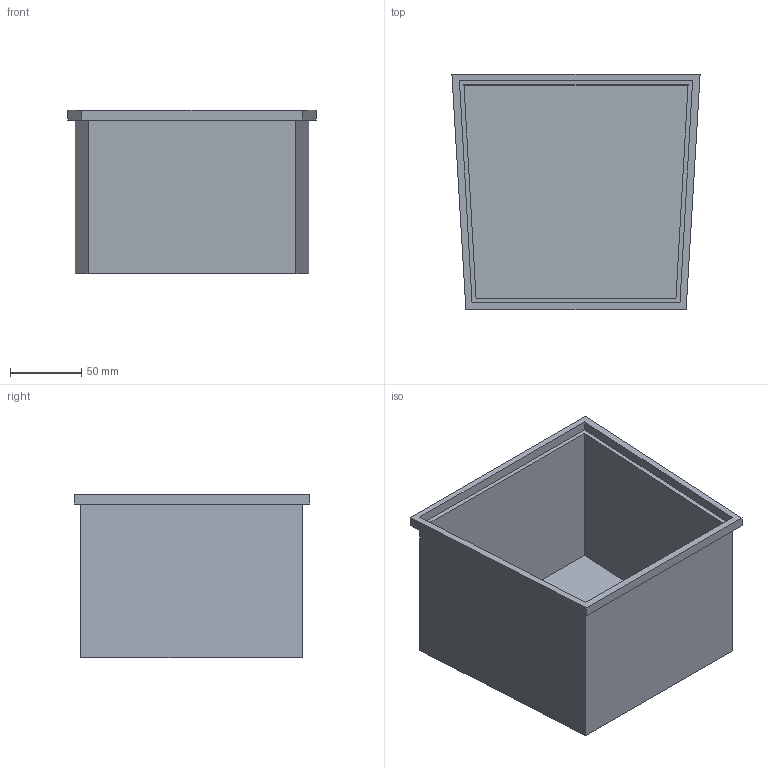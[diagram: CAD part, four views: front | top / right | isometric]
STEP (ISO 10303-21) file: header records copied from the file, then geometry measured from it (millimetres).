
FILE_DESCRIPTION(('HOOPS Exchange Step'),'2;1');
FILE_NAME('/var/folders/p6/724yxtpj5h125n80xclz47x00000gn/T/com.shapr3d.shapr/export/temp_export','2022-03-06T23:24:01+19:00',('jwelin'),('Shapr3D Limited'),'HOOPS Exchange 2021.2','Shapr3D','Authorized');
FILE_SCHEMA( ('AP203_CONFIGURATION_CONTROLLED_3D_DESIGN_OF_MECHANICAL_PARTS_AND_ASSEMBLIES_MIM_LF') );
Length unit declared in the file: millimetre
Products named in the file (1): /var/folders/p6/724yxtpj5h125n80xclz47x00000gn/T/com.shapr3d.shapr/481D4382-DF49-4668-9165-B24318905B1D.tmp
Bounding box: 174.67 x 165.56 x 114.88 mm (x, y, z)
Volume: 286175 mm3; surface area: 193617.6 mm2
Topology: 2 solids, 2 shells, 21 faces, 48 edges, 32 vertices
Faces by surface type: plane 21
Entity records: 609 total; most frequent: CARTESIAN_POINT 102, ORIENTED_EDGE 96, DIRECTION 92, VECTOR 48, LINE 48, EDGE_CURVE 48, VERTEX_POINT 32, EDGE_LOOP 24
